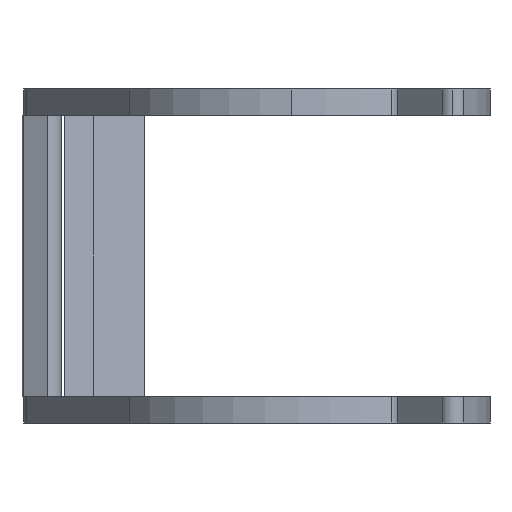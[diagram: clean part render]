
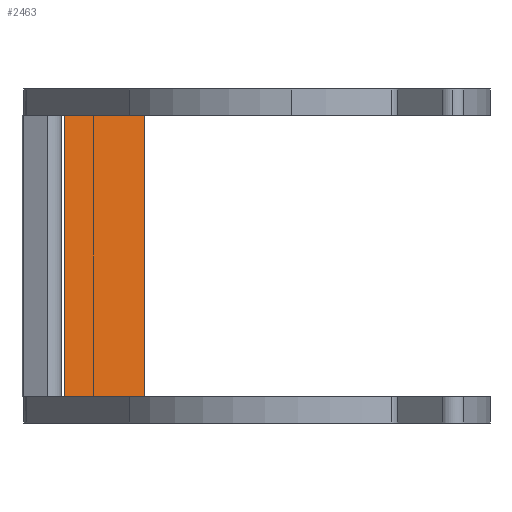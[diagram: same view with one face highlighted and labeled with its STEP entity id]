
A CAD part, left-side view. The second image highlights one B-rep face of the part: STEP entity #2463.
In plain terms, the highlighted planar face has unit normal (-0.975, -0.225, 0).
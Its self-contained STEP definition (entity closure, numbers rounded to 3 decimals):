
#726 = ORIENTED_EDGE ( 'NONE', *, *, #6908, .T. ) ;
#924 = CARTESIAN_POINT ( 'NONE',  ( 70.974, 44.45, -85. ) ) ;
#925 = LINE ( 'NONE', #1594, #7756 ) ;
#1133 = DIRECTION ( 'NONE',  ( 0., 0., 1. ) ) ;
#1260 = VERTEX_POINT ( 'NONE', #6461 ) ;
#1380 = ORIENTED_EDGE ( 'NONE', *, *, #7780, .F. ) ;
#1381 = FACE_OUTER_BOUND ( 'NONE', #3239, .T. ) ;
#1559 = VECTOR ( 'NONE', #1133, 1000. ) ;
#1594 = CARTESIAN_POINT ( 'NONE',  ( 65.389, 68.687, -85. ) ) ;
#2134 = CARTESIAN_POINT ( 'NONE',  ( 65.389, 68.687, 0. ) ) ;
#2255 = CARTESIAN_POINT ( 'NONE',  ( 65.389, 68.687, -85. ) ) ;
#2463 = ADVANCED_FACE ( 'NONE', ( #1381 ), #4522, .F. ) ;
#2950 = DIRECTION ( 'NONE',  ( -0.225, 0.974, 0. ) ) ;
#3119 = DIRECTION ( 'NONE',  ( -0.225, 0.974, 0. ) ) ;
#3131 = EDGE_CURVE ( 'NONE', #6830, #7338, #3537, .T. ) ;
#3239 = EDGE_LOOP ( 'NONE', ( #8043, #4258, #1380, #726 ) ) ;
#3285 = EDGE_CURVE ( 'NONE', #4939, #7338, #6954, .T. ) ;
#3537 = LINE ( 'NONE', #2255, #1559 ) ;
#3543 = VECTOR ( 'NONE', #3119, 1000. ) ;
#3701 = CARTESIAN_POINT ( 'NONE',  ( 65.389, 68.687, 0. ) ) ;
#3786 = CARTESIAN_POINT ( 'NONE',  ( 65.389, 68.687, -85. ) ) ;
#4258 = ORIENTED_EDGE ( 'NONE', *, *, #3131, .F. ) ;
#4522 = PLANE ( 'NONE',  #5953 ) ;
#4692 = VECTOR ( 'NONE', #5281, 1000. ) ;
#4737 = LINE ( 'NONE', #924, #4692 ) ;
#4939 = VERTEX_POINT ( 'NONE', #5137 ) ;
#5137 = CARTESIAN_POINT ( 'NONE',  ( 70.974, 44.45, 0. ) ) ;
#5281 = DIRECTION ( 'NONE',  ( 0., 0., 1. ) ) ;
#5953 = AXIS2_PLACEMENT_3D ( 'NONE', #6703, #5990, #2950 ) ;
#5990 = DIRECTION ( 'NONE',  ( 0.974, 0.225, 0. ) ) ;
#6461 = CARTESIAN_POINT ( 'NONE',  ( 70.974, 44.45, -85. ) ) ;
#6703 = CARTESIAN_POINT ( 'NONE',  ( 65.389, 68.687, -85. ) ) ;
#6830 = VERTEX_POINT ( 'NONE', #3786 ) ;
#6908 = EDGE_CURVE ( 'NONE', #1260, #4939, #4737, .T. ) ;
#6954 = LINE ( 'NONE', #3701, #3543 ) ;
#7338 = VERTEX_POINT ( 'NONE', #2134 ) ;
#7756 = VECTOR ( 'NONE', #7881, 1000. ) ;
#7780 = EDGE_CURVE ( 'NONE', #1260, #6830, #925, .T. ) ;
#7881 = DIRECTION ( 'NONE',  ( -0.225, 0.974, 0. ) ) ;
#8043 = ORIENTED_EDGE ( 'NONE', *, *, #3285, .T. ) ;
